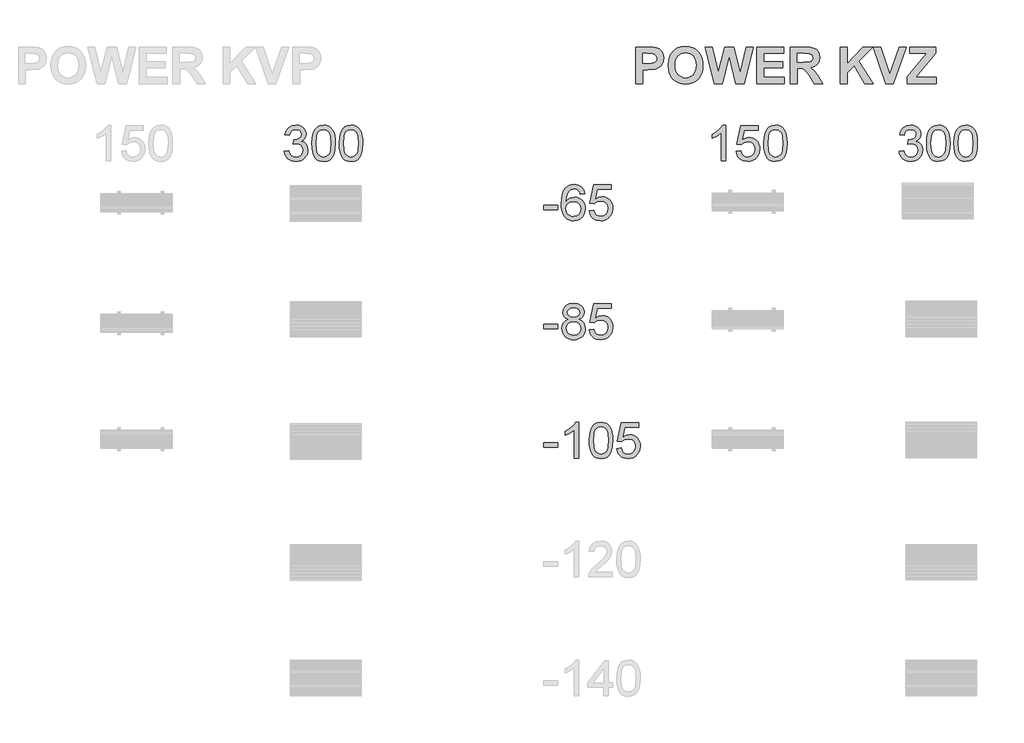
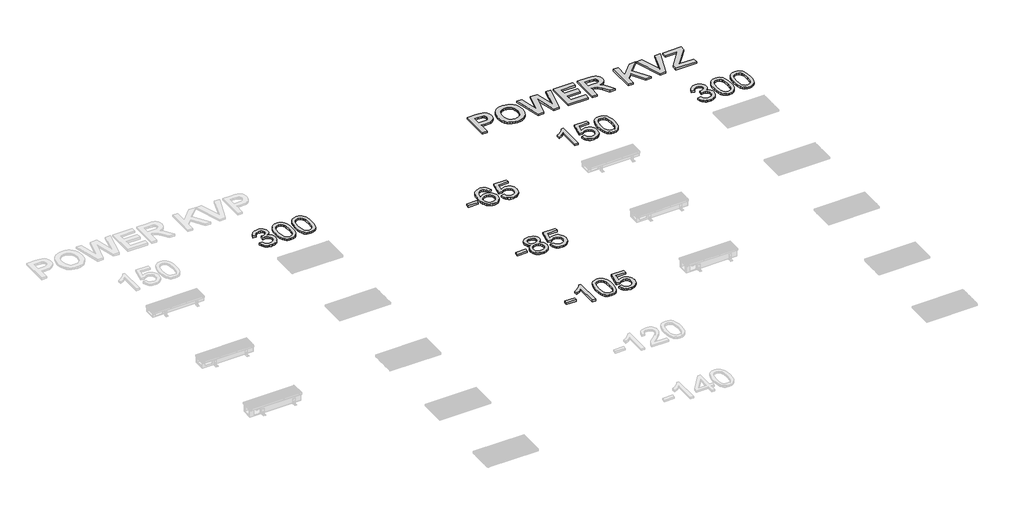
# One storey, part 10 of 10: 7 proxies.
"""IFC4 building model written with IfcOpenShell, lengths in millimetres."""

from ifc_helpers import new_model, si_unit, origin, origin_with_axes, place, context, project, spatial, polyline, outline, extrude, element, save

model = new_model("IFC4")

# Units and contexts
model_context = context("Model", 3, world=origin())
ifc_project = project(units=[si_unit("LENGTHUNIT", "METRE", prefix="MILLI")], contexts=[model_context])

# Site, building, storey
site = spatial("IfcSite", under=ifc_project)
building = spatial("IfcBuilding", under=site)
storey = spatial("IfcBuildingStorey", under=building, Name="Уровень 1", Elevation=0.0)

# Proxies
placement = place(None, origin())
element("IfcBuildingElementProxy", 1, Name="300", ObjectType="300", at=placement, inside=storey, context=model_context, shape_type="SweptSolid", body=[
    extrude(outline(polyline([(8727.5693217, -11374.3057257), (8765.240438, -11369.5968361), (8773.6741327, -11393.2700425), (8786.0257707, -11409.2545152), (8802.9023573, -11418.3595946), (8824.9108976, -11421.3946211), (8850.7362137, -11417.2191604), (8870.6754178, -11404.6927785), (8883.4225289, -11386.0043731), (8887.671566, -11363.3428422), (8883.4593171, -11341.8309426), (8870.8225706, -11324.3841389), (8851.6927069, -11312.8234472), (8828.0011064, -11308.9698833), (8801.5871791, -11313.0901617), (8805.7810339, -11275.4190454), (8811.8142986, -11275.8605038), (8834.383859, -11273.1565711), (8854.5621864, -11265.0447731), (8868.7992196, -11251.3227747), (8873.5448974, -11231.7882407), (8870.1052007, -11215.5186595), (8859.7861108, -11202.3208929), (8844.0407614, -11193.5744985), (8824.3222864, -11190.6590337), (8804.5670233, -11193.6020896), (8788.4170037, -11202.4312575), (8776.6263857, -11217.1465373), (8769.9493275, -11237.7479291), (8732.2782112, -11233.0390395), (8743.3698534, -11199.2122901), (8763.1067224, -11173.9571911), (8790.1092609, -11158.2302358), (8822.9979112, -11152.9879174), (8846.6803147, -11155.5722884), (8868.4313376, -11163.3254014), (8886.7702551, -11175.5574778), (8900.216342, -11191.5787387), (8908.4660958, -11210.0372178), (8911.2160137, -11229.5809488), (8908.6040515, -11247.7911075), (8900.768165, -11264.3090091), (8887.8187188, -11278.3804954), (8869.8660774, -11289.2514084), (8893.4473133, -11298.7795521), (8910.9217081, -11315.0031481), (8921.7374387, -11337.0392796), (8925.3426823, -11364.0050298), (8923.5400605, -11383.1164995), (8918.1321952, -11400.7196529), (8909.1190863, -11416.8144902), (8896.5007339, -11431.4010113), (8881.127865, -11443.504329), (8863.8512068, -11452.1495559), (8844.6707593, -11457.336692), (8823.5865224, -11459.0657374), (8804.5302351, -11457.5896109), (8787.1662049, -11453.1612313), (8771.4944319, -11445.7805988), (8757.5149161, -11435.4477133), (8745.793276, -11422.76958), (8736.8951303, -11408.3532043), (8730.8204788, -11392.1985862), (8727.5693217, -11374.3057257)])), origin_with_axes(), (0.0, 0.0, 1.0), 20.0),
    extrude(outline(polyline([(8958.3049091, -11306.1004038), (8961.0732211, -11257.8618772), (8969.3781571, -11219.3906175), (8983.1369437, -11190.0980136), (9002.2668075, -11169.3954544), (9026.9057041, -11157.0898016), (9057.1915894, -11152.9879174), (9080.4049433, -11155.4159385), (9101.190276, -11162.700002), (9118.5727003, -11174.5549993), (9131.5773288, -11190.6958219), (9141.3997781, -11210.9845139), (9149.2356646, -11235.2831197), (9154.3676184, -11266.139222), (9156.0782697, -11306.1004038), (9153.3375488, -11354.0630189), (9145.1153862, -11392.442308), (9131.439373, -11421.7625031), (9112.3371004, -11442.5478358), (9087.6430215, -11454.936262), (9057.1915894, -11459.0657374), (9036.4430448, -11457.2723126), (9018.0489451, -11451.8920385), (9002.0092901, -11442.9249148), (8988.3240799, -11430.3709417), (8975.1906926, -11407.6772212), (8965.8097018, -11379.4008913), (8960.1811072, -11345.5419522), (8958.3049091, -11306.1004038)]), holes=[polyline([(8995.9760254, -11306.0268274), (9000.3906093, -11365.2834197), (9005.9088392, -11385.5514184), (9013.6343611, -11399.5792187), (9033.3528361, -11415.9407705), (9057.1915894, -11421.3946211), (9081.0303427, -11415.9223764), (9100.7488176, -11399.5056423), (9108.4743395, -11385.4548494), (9113.9925694, -11365.1914492), (9118.4071534, -11306.0268274), (9114.1397222, -11248.1038072), (9108.8054333, -11227.9024872), (9101.3374288, -11213.5412938), (9081.655742, -11196.3795987), (9056.750131, -11190.6590337), (9033.1688951, -11195.699017), (9014.2229723, -11210.818967), (9006.239933, -11226.4539518), (9000.5377621, -11247.5335901), (8995.9760254, -11306.0268274)])]), origin_with_axes(), (0.0, 0.0, 1.0), 20.0),
    extrude(outline(polyline([(9189.0404964, -11306.1004038), (9191.8088085, -11257.8618772), (9200.1137445, -11219.3906175), (9213.8725311, -11190.0980136), (9233.0023949, -11169.3954544), (9257.6412915, -11157.0898016), (9287.9271767, -11152.9879174), (9311.1405306, -11155.4159385), (9331.9258634, -11162.700002), (9349.3082876, -11174.5549993), (9362.3129162, -11190.6958219), (9372.1353654, -11210.9845139), (9379.9712519, -11235.2831197), (9385.1032058, -11266.139222), (9386.813857, -11306.1004038), (9384.0731362, -11354.0630189), (9375.8509736, -11392.442308), (9362.1749604, -11421.7625031), (9343.0726878, -11442.5478358), (9318.3786089, -11454.936262), (9287.9271767, -11459.0657374), (9267.1786322, -11457.2723126), (9248.7845325, -11451.8920385), (9232.7448775, -11442.9249148), (9219.0596672, -11430.3709417), (9205.92628, -11407.6772212), (9196.5452891, -11379.4008913), (9190.9166946, -11345.5419522), (9189.0404964, -11306.1004038)]), holes=[polyline([(9226.7116127, -11306.0268274), (9231.1261967, -11365.2834197), (9236.6444266, -11385.5514184), (9244.3699485, -11399.5792187), (9264.0884235, -11415.9407705), (9287.9271767, -11421.3946211), (9311.76593, -11415.9223764), (9331.484405, -11399.5056423), (9339.2099269, -11385.4548494), (9344.7281568, -11365.1914492), (9349.1427407, -11306.0268274), (9344.8753096, -11248.1038072), (9339.5410207, -11227.9024872), (9332.0730162, -11213.5412938), (9312.3913294, -11196.3795987), (9287.4857183, -11190.6590337), (9263.9044825, -11195.699017), (9244.9585597, -11210.818967), (9236.9755204, -11226.4539518), (9231.2733495, -11247.5335901), (9226.7116127, -11306.0268274)])]), origin_with_axes(), (0.0, 0.0, 1.0), 20.0),
])
element("IfcBuildingElementProxy", 2, Name="300", ObjectType="300", at=placement, inside=storey, context=model_context, shape_type="SweptSolid", body=[
    extrude(outline(polyline([(10910.3041617, -11863.5358933), (10910.3041617, -11825.864777), (11028.0264001, -11825.864777), (11028.0264001, -11863.5358933), (10910.3041617, -11863.5358933)])), origin_with_axes(), (0.0, 0.0, 1.0), 20.0),
    extrude(outline(polyline([(11254.053098, -11731.6869862), (11216.3819817, -11736.3958758), (11210.3119287, -11717.7258645), (11202.1081602, -11704.9787534), (11185.0200416, -11693.2249236), (11164.3634675, -11689.3069804), (11146.8522846, -11691.5878488), (11130.3711712, -11698.4304539), (11116.2169114, -11712.842231), (11104.6562197, -11732.6802676), (11096.8479244, -11760.7404668), (11093.9508537, -11799.8187317), (11109.0616066, -11782.1879871), (11127.1705978, -11769.7627727), (11147.2661518, -11762.3959358), (11168.3365931, -11759.9403235), (11186.4363872, -11761.6187851), (11203.1382298, -11766.6541699), (11218.4421208, -11775.0464779), (11232.3480602, -11786.7957091), (11243.9041534, -11801.2028877), (11252.1585057, -11817.569038), (11257.111117, -11835.8941599), (11258.7619875, -11856.1782534), (11255.6533846, -11883.1532007), (11246.3275761, -11908.1599793), (11231.557114, -11929.3683763), (11212.1145505, -11944.9481788), (11188.8828025, -11954.5223078), (11162.7447868, -11957.7136841), (11140.2878902, -11955.5983626), (11120.006096, -11949.2523982), (11101.899404, -11938.6757908), (11085.9678144, -11923.8685405), (11072.9792807, -11904.2052479), (11063.7017566, -11879.0605135), (11058.1352422, -11848.4343374), (11056.2797373, -11812.3267196), (11058.3398765, -11771.8459045), (11064.520294, -11737.2971867), (11074.8209899, -11708.680566), (11089.2419641, -11685.9960424), (11104.8723504, -11670.9634644), (11122.9951372, -11660.2259087), (11143.6103245, -11653.7833752), (11166.7179123, -11651.6358641), (11199.7721096, -11656.9517589), (11226.2412191, -11672.8994434), (11244.7824717, -11698.2281188), (11254.053098, -11731.6869862)]), holes=[polyline([(11093.9508537, -11855.5896422), (11096.1305545, -11872.2822877), (11102.6696569, -11888.2207752), (11112.8232, -11901.9243795), (11125.8462226, -11911.9123757), (11141.5639809, -11918.0100197), (11159.8017308, -11920.0425678), (11184.6613566, -11915.8303189), (11204.2050876, -11903.1935724), (11216.8694253, -11883.3279446), (11221.0908712, -11857.4290522), (11216.9246076, -11832.5694264), (11204.4258168, -11813.6143066), (11184.550992, -11801.6121565), (11158.2566264, -11797.6114398), (11133.4337888, -11801.6121565), (11112.6760472, -11813.6143066), (11098.632152, -11832.1095739), (11093.9508537, -11855.5896422)])]), origin_with_axes(), (0.0, 0.0, 1.0), 20.0),
    extrude(outline(polyline([(11291.7242143, -11872.9536724), (11329.3953306, -11868.2447828), (11336.3115121, -11890.8603285), (11348.3780415, -11907.0563333), (11365.5397366, -11916.7960092), (11387.741415, -11920.0425678), (11414.7439534, -11915.5268163), (11434.9774632, -11901.9795618), (11447.6142097, -11880.9643028), (11451.8264586, -11854.0445378), (11447.8809242, -11828.6974684), (11436.044321, -11809.3100872), (11416.2246785, -11797.0044345), (11388.3300262, -11792.9025502), (11370.0554881, -11794.5396251), (11355.2574348, -11799.4508497), (11334.1042201, -11816.4469979), (11296.4331038, -11811.7381084), (11329.3953306, -11656.3447536), (11475.3709063, -11656.3447536), (11475.3709063, -11694.0158699), (11359.8559598, -11694.0158699), (11343.7427284, -11777.010048), (11370.6532963, -11760.6760875), (11398.8514513, -11755.2314339), (11417.1972665, -11756.9190926), (11434.0485611, -11761.9820685), (11449.4053352, -11770.4203618), (11463.2675886, -11782.2339724), (11474.7432076, -11796.7009318), (11482.9400783, -11813.0992718), (11487.8582007, -11831.4289922), (11489.4975749, -11851.6900931), (11483.5930688, -11889.3612094), (11476.2124363, -11906.1550224), (11465.8795508, -11921.5876721), (11450.2261719, -11937.3928024), (11431.9608308, -11948.6821811), (11411.0835276, -11955.4558083), (11387.5942622, -11957.7136841), (11350.5945305, -11951.9103456), (11334.9158598, -11944.6561725), (11321.1179857, -11934.5003302), (11309.6377682, -11921.9486563), (11300.9120671, -11907.5069888), (11291.7242143, -11872.9536724)])), origin_with_axes(), (0.0, 0.0, 1.0), 20.0),
])
element("IfcBuildingElementProxy", 3, Name="300", ObjectType="300", at=placement, inside=storey, context=model_context, shape_type="SweptSolid", body=[
    extrude(outline(polyline([(10910.3041617, -12863.5358933), (10910.3041617, -12825.864777), (11028.0264001, -12825.864777), (11028.0264001, -12863.5358933), (10910.3041617, -12863.5358933)])), origin_with_axes(), (0.0, 0.0, 1.0), 20.0),
    extrude(outline(polyline([(11115.8766206, -12787.0164383), (11095.7074902, -12777.0836244), (11081.5532304, -12763.6191434), (11073.1931121, -12746.8989067), (11070.406406, -12727.1988259), (11071.9239192, -12711.8351541), (11076.4764589, -12697.7498722), (11084.064025, -12684.9429802), (11094.6866176, -12673.4144782), (11107.8338004, -12663.8863345), (11122.9951372, -12657.0805176), (11159.3602724, -12651.6358641), (11195.9461368, -12657.2092763), (11211.2730204, -12664.1760416), (11224.6225383, -12673.929513), (11235.438269, -12685.6833427), (11243.1637909, -12698.6511831), (11247.799104, -12712.833034), (11249.3442084, -12728.2288955), (11246.5942905, -12747.2943799), (11238.3445368, -12763.729508), (11224.5029767, -12777.1112156), (11204.9776398, -12787.0164383), (11228.1634025, -12798.9634061), (11245.0399891, -12816.5573625), (11255.3314879, -12838.952179), (11258.7619875, -12865.3017269), (11257.0605333, -12884.0912998), (11251.9561706, -12901.3173742), (11243.4488994, -12916.9799502), (11231.5387199, -12931.0790276), (11216.8510312, -12942.7316898), (11200.0112329, -12951.05502), (11181.0193249, -12956.049018), (11159.8753072, -12957.7136841), (11138.7312895, -12956.0421203), (11119.7393815, -12951.0274288), (11102.8995832, -12942.6696097), (11088.2118945, -12930.968663), (11076.3017149, -12916.7707173), (11067.7944438, -12900.9219011), (11062.6900811, -12883.4222144), (11060.9886269, -12864.2716573), (11064.5570822, -12836.9012369), (11075.2624483, -12814.3868587), (11092.5529021, -12797.5010752), (11115.8766206, -12787.0164383)]), holes=[polyline([(11108.0775223, -12728.3024719), (11111.4160514, -12744.7467971), (11121.4316387, -12757.8801843), (11137.8299786, -12766.488623), (11160.3167656, -12769.3581025), (11182.2793207, -12766.5070171), (11198.4293403, -12757.9537607), (11208.3621542, -12745.2618319), (11211.6730921, -12729.9947291), (11208.2517896, -12714.1482121), (11197.9878819, -12701.042416), (11181.6171331, -12692.2408393), (11159.8753072, -12689.3069804), (11137.9955255, -12692.1764599), (11121.6523679, -12700.7848986), (11111.4712337, -12713.4032511), (11108.0775223, -12728.3024719)]), polyline([(11098.6597432, -12862.9472821), (11104.9505253, -12891.3109839), (11113.6601315, -12903.4786809), (11127.207386, -12912.5377751), (11143.430982, -12918.1663696), (11160.1696128, -12920.0425678), (11185.8109879, -12916.0970334), (11205.0512162, -12904.2604302), (11217.0809574, -12886.33538), (11221.0908712, -12864.1245045), (11216.9521987, -12841.53655), (11204.5361814, -12823.2160266), (11184.8544947, -12811.0759208), (11158.918814, -12807.0292188), (11133.6361239, -12811.0207385), (11114.5890336, -12822.9952974), (11102.6420658, -12840.9663329), (11098.6597432, -12862.9472821)])]), origin_with_axes(), (0.0, 0.0, 1.0), 20.0),
    extrude(outline(polyline([(11291.7242143, -12872.9536724), (11329.3953306, -12868.2447828), (11336.3115121, -12890.8603285), (11348.3780415, -12907.0563333), (11365.5397366, -12916.7960092), (11387.741415, -12920.0425678), (11414.7439534, -12915.5268163), (11434.9774632, -12901.9795618), (11447.6142097, -12880.9643028), (11451.8264586, -12854.0445378), (11447.8809242, -12828.6974684), (11436.044321, -12809.3100872), (11416.2246785, -12797.0044345), (11388.3300262, -12792.9025502), (11370.0554881, -12794.5396251), (11355.2574348, -12799.4508497), (11334.1042201, -12816.4469979), (11296.4331038, -12811.7381084), (11329.3953306, -12656.3447536), (11475.3709063, -12656.3447536), (11475.3709063, -12694.0158699), (11359.8559598, -12694.0158699), (11343.7427284, -12777.010048), (11370.6532963, -12760.6760875), (11398.8514513, -12755.2314339), (11417.1972665, -12756.9190926), (11434.0485611, -12761.9820685), (11449.4053352, -12770.4203618), (11463.2675886, -12782.2339724), (11474.7432076, -12796.7009318), (11482.9400783, -12813.0992718), (11487.8582007, -12831.4289922), (11489.4975749, -12851.6900931), (11483.5930688, -12889.3612094), (11476.2124363, -12906.1550224), (11465.8795508, -12921.5876721), (11450.2261719, -12937.3928024), (11431.9608308, -12948.6821811), (11411.0835276, -12955.4558083), (11387.5942622, -12957.7136841), (11350.5945305, -12951.9103456), (11334.9158598, -12944.6561725), (11321.1179857, -12934.5003302), (11309.6377682, -12921.9486563), (11300.9120671, -12907.5069888), (11291.7242143, -12872.9536724)])), origin_with_axes(), (0.0, 0.0, 1.0), 20.0),
])
element("IfcBuildingElementProxy", 4, Name="300", ObjectType="300", at=placement, inside=storey, context=model_context, shape_type="SweptSolid", body=[
    extrude(outline(polyline([(10910.3041617, -13863.5358933), (10910.3041617, -13825.864777), (11028.0264001, -13825.864777), (11028.0264001, -13863.5358933), (10910.3041617, -13863.5358933)])), origin_with_axes(), (0.0, 0.0, 1.0), 20.0),
    extrude(outline(polyline([(11202.255313, -13953.0047945), (11164.5841967, -13953.0047945), (11164.5841967, -13718.1489288), (11128.8996432, -13743.5695747), (11089.2419641, -13762.5890738), (11089.2419641, -13726.9780967), (11118.8288736, -13710.8832594), (11144.4610516, -13691.7350016), (11164.6669702, -13671.3727331), (11177.9751014, -13651.6358641), (11202.255313, -13651.6358641), (11202.255313, -13953.0047945)])), origin_with_axes(), (0.0, 0.0, 1.0), 20.0),
    extrude(outline(polyline([(11291.7242143, -13804.7483505), (11294.4925263, -13756.5098239), (11302.7974623, -13718.0385642), (11316.5562489, -13688.7459603), (11335.6861127, -13668.0434011), (11360.3250093, -13655.7377483), (11390.6108946, -13651.6358641), (11413.8242485, -13654.0638852), (11434.6095812, -13661.3479488), (11451.9920055, -13673.202946), (11464.996634, -13689.3437686), (11474.8190833, -13709.6324606), (11482.6549698, -13733.9310664), (11487.7869236, -13764.7871687), (11489.4975749, -13804.7483505), (11486.756854, -13852.7109656), (11478.5346914, -13891.0902547), (11464.8586782, -13920.4104498), (11445.7564056, -13941.1957825), (11421.0623267, -13953.5842087), (11390.6108946, -13957.7136841), (11369.86235, -13955.9202593), (11351.4682503, -13950.5399852), (11335.4285953, -13941.5728615), (11321.7433851, -13929.0188884), (11308.6099978, -13906.3251679), (11299.229007, -13878.048838), (11293.6004124, -13844.1898989), (11291.7242143, -13804.7483505)]), holes=[polyline([(11329.3953306, -13804.6747741), (11333.8099145, -13863.9313664), (11339.3281444, -13884.1993651), (11347.0536663, -13898.2271654), (11366.7721413, -13914.5887172), (11390.6108946, -13920.0425678), (11414.4496479, -13914.5703231), (11434.1681228, -13898.153589), (11441.8936447, -13884.1027961), (11447.4118746, -13863.8393959), (11451.8264586, -13804.6747741), (11447.5590274, -13746.7517539), (11442.2247385, -13726.5504339), (11434.756734, -13712.1892405), (11415.0750472, -13695.0275454), (11390.1694362, -13689.3069804), (11366.5882003, -13694.3469637), (11347.6422775, -13709.4669137), (11339.6592382, -13725.1018985), (11333.9570673, -13746.1815368), (11329.3953306, -13804.6747741)])]), origin_with_axes(), (0.0, 0.0, 1.0), 20.0),
    extrude(outline(polyline([(11522.4598016, -13872.9536724), (11560.1309179, -13868.2447828), (11567.0470995, -13890.8603285), (11579.1136289, -13907.0563333), (11596.275324, -13916.7960092), (11618.4770024, -13920.0425678), (11645.4795408, -13915.5268163), (11665.7130506, -13901.9795618), (11678.3497971, -13880.9643028), (11682.5620459, -13854.0445378), (11678.6165115, -13828.6974684), (11666.7799083, -13809.3100872), (11646.9602659, -13797.0044345), (11619.0656136, -13792.9025502), (11600.7910755, -13794.5396251), (11585.9930222, -13799.4508497), (11564.8398075, -13816.4469979), (11527.1686912, -13811.7381084), (11560.1309179, -13656.3447536), (11706.1064936, -13656.3447536), (11706.1064936, -13694.0158699), (11590.5915471, -13694.0158699), (11574.4783158, -13777.010048), (11601.3888837, -13760.6760875), (11629.5870386, -13755.2314339), (11647.9328539, -13756.9190926), (11664.7841485, -13761.9820685), (11680.1409226, -13770.4203618), (11694.003176, -13782.2339724), (11705.478795, -13796.7009318), (11713.6756657, -13813.0992718), (11718.5937881, -13831.4289922), (11720.2331622, -13851.6900931), (11714.3286562, -13889.3612094), (11706.9480237, -13906.1550224), (11696.6151382, -13921.5876721), (11680.9617593, -13937.3928024), (11662.6964182, -13948.6821811), (11641.819115, -13955.4558083), (11618.3298496, -13957.7136841), (11581.3301179, -13951.9103456), (11565.6514471, -13944.6561725), (11551.8535731, -13934.5003302), (11540.3733555, -13921.9486563), (11531.6476545, -13907.5069888), (11522.4598016, -13872.9536724)])), origin_with_axes(), (0.0, 0.0, 1.0), 20.0),
])
element("IfcBuildingElementProxy", 5, Name="300", ObjectType="300", at=placement, inside=storey, context=model_context, shape_type="SweptSolid", body=[
    extrude(outline(polyline([(12438.3616682, -11454.2480161), (12400.6905519, -11454.2480161), (12400.6905519, -11219.3921504), (12365.0059984, -11244.8127962), (12325.3483193, -11263.8322954), (12325.3483193, -11228.2213182), (12354.9352287, -11212.126481), (12380.5674067, -11192.9782231), (12400.7733253, -11172.6159547), (12414.0814565, -11152.8790856), (12438.3616682, -11152.8790856), (12438.3616682, -11454.2480161)])), origin_with_axes(), (0.0, 0.0, 1.0), 20.0),
    extrude(outline(polyline([(12527.8305694, -11374.1968939), (12565.5016857, -11369.4880044), (12572.4178672, -11392.10355), (12584.4843967, -11408.2995549), (12601.6460918, -11418.0392307), (12623.8477702, -11421.2857893), (12650.8503086, -11416.7700378), (12671.0838183, -11403.2227833), (12683.7205649, -11382.2075244), (12687.9328137, -11355.2877594), (12683.9872793, -11329.9406899), (12672.1506761, -11310.5533088), (12652.3310336, -11298.247656), (12624.4363814, -11294.1457718), (12606.1618432, -11295.7828467), (12591.36379, -11300.6940713), (12570.2105753, -11317.6902195), (12532.539459, -11312.9813299), (12565.5016857, -11157.5879752), (12711.4772614, -11157.5879752), (12711.4772614, -11195.2590915), (12595.9623149, -11195.2590915), (12579.8490835, -11278.2532696), (12606.7596515, -11261.919309), (12634.9578064, -11256.4746555), (12653.3036217, -11258.1623141), (12670.1549163, -11263.2252901), (12685.5116903, -11271.6635833), (12699.3739438, -11283.4771939), (12710.8495628, -11297.9441534), (12719.0464335, -11314.3424933), (12723.9645559, -11332.6722137), (12725.60393, -11352.9333146), (12719.699424, -11390.6044309), (12712.3187915, -11407.398244), (12701.9859059, -11422.8308937), (12686.332527, -11438.6360239), (12668.067186, -11449.9254026), (12647.1898828, -11456.6990299), (12623.7006174, -11458.9569056), (12586.7008857, -11453.1535671), (12571.0222149, -11445.899394), (12557.2243408, -11435.7435517), (12545.7441233, -11423.1918779), (12537.0184222, -11408.7502103), (12527.8305694, -11374.1968939)])), origin_with_axes(), (0.0, 0.0, 1.0), 20.0),
    extrude(outline(polyline([(12758.5661568, -11305.991572), (12761.3344688, -11257.7530454), (12769.6394048, -11219.2817858), (12783.3981915, -11189.9891819), (12802.5280552, -11169.2866226), (12827.1669518, -11156.9809699), (12857.4528371, -11152.8790856), (12880.666191, -11155.3071068), (12901.4515237, -11162.5911703), (12918.833948, -11174.4461676), (12931.8385765, -11190.5869901), (12941.6610258, -11210.8756822), (12949.4969123, -11235.1742879), (12954.6288661, -11266.0303903), (12956.3395174, -11305.991572), (12953.5987965, -11353.9541871), (12945.3766339, -11392.3334763), (12931.7006208, -11421.6536713), (12912.5983482, -11442.439004), (12887.9042692, -11454.8274302), (12857.4528371, -11458.9569056), (12836.7042926, -11457.1634809), (12818.3101928, -11451.7832067), (12802.2705378, -11442.8160831), (12788.5853276, -11430.26211), (12775.4519404, -11407.5683894), (12766.0709495, -11379.2920596), (12760.442355, -11345.4331204), (12758.5661568, -11305.991572)]), holes=[polyline([(12796.2372731, -11305.9179956), (12800.651857, -11365.174588), (12806.170087, -11385.4425867), (12813.8956089, -11399.470387), (12833.6140838, -11415.8319387), (12857.4528371, -11421.2857893), (12881.2915904, -11415.8135446), (12901.0100653, -11399.3968106), (12908.7355872, -11385.3460176), (12914.2538172, -11365.0826175), (12918.6684011, -11305.9179956), (12914.40097, -11247.9949755), (12909.066681, -11227.7936554), (12901.5986765, -11213.432462), (12881.9169898, -11196.270767), (12857.0113787, -11190.5502019), (12833.4301428, -11195.5901853), (12814.4842201, -11210.7101353), (12806.5011808, -11226.3451201), (12800.7990098, -11247.4247584), (12796.2372731, -11305.9179956)])]), origin_with_axes(), (0.0, 0.0, 1.0), 20.0),
])
element("IfcBuildingElementProxy", 6, Name="300", ObjectType="300", at=placement, inside=storey, context=model_context, shape_type="SweptSolid", body=[
    extrude(outline(polyline([(13897.094982, -11374.1968939), (13934.7660983, -11369.4880044), (13943.1997931, -11393.1612108), (13955.5514311, -11409.1456835), (13972.4280176, -11418.2507628), (13994.436558, -11421.2857893), (14020.261874, -11417.1103287), (14040.2010782, -11404.5839467), (14052.9481893, -11385.8955414), (14057.1972263, -11363.2340105), (14052.9849775, -11341.7221108), (14040.348231, -11324.2753072), (14021.2183672, -11312.7146155), (13997.5267667, -11308.8610516), (13971.1128395, -11312.9813299), (13975.3066942, -11275.3102136), (13981.3399589, -11275.751672), (14003.9095193, -11273.0477394), (14024.0878468, -11264.9359414), (14038.32488, -11251.2139429), (14043.0705577, -11231.679409), (14039.6308611, -11215.4098278), (14029.3117711, -11202.2120612), (14013.5664217, -11193.4656667), (13993.8479468, -11190.5502019), (13974.0926836, -11193.4932579), (13957.942664, -11202.3224258), (13946.1520461, -11217.0377056), (13939.4749879, -11237.6390973), (13901.8038716, -11232.9302078), (13912.8955137, -11199.1034583), (13932.6323828, -11173.8483594), (13959.6349212, -11158.1214041), (13992.5235716, -11152.8790856), (14016.205975, -11155.4634566), (14037.956998, -11163.2165697), (14056.2959155, -11175.448646), (14069.7420024, -11191.4699069), (14077.9917561, -11209.928386), (14080.741674, -11229.472117), (14078.1297119, -11247.6822758), (14070.2938254, -11264.2001774), (14057.3443791, -11278.2716637), (14039.3917378, -11289.1425766), (14062.9729737, -11298.6707203), (14080.4473684, -11314.8943163), (14091.2630991, -11336.9304478), (14094.8683427, -11363.8961981), (14093.0657209, -11383.0076677), (14087.6578555, -11400.6108212), (14078.6447467, -11416.7056585), (14066.0263942, -11431.2921796), (14050.6535254, -11443.3954972), (14033.3768672, -11452.0407241), (14014.1964196, -11457.2278602), (13993.1121828, -11458.9569056), (13974.0558954, -11457.4807791), (13956.6918653, -11453.0523996), (13941.0200923, -11445.6717671), (13927.0405765, -11435.3388815), (13915.3189364, -11422.6607483), (13906.4207906, -11408.2443726), (13900.3461392, -11392.0897545), (13897.094982, -11374.1968939)])), origin_with_axes(), (0.0, 0.0, 1.0), 20.0),
    extrude(outline(polyline([(14127.8305694, -11305.991572), (14130.5988814, -11257.7530454), (14138.9038175, -11219.2817858), (14152.6626041, -11189.9891819), (14171.7924678, -11169.2866226), (14196.4313645, -11156.9809699), (14226.7172497, -11152.8790856), (14249.9306036, -11155.3071068), (14270.7159363, -11162.5911703), (14288.0983606, -11174.4461676), (14301.1029891, -11190.5869901), (14310.9254384, -11210.8756822), (14318.7613249, -11235.1742879), (14323.8932787, -11266.0303903), (14325.60393, -11305.991572), (14322.8632092, -11353.9541871), (14314.6410466, -11392.3334763), (14300.9650334, -11421.6536713), (14281.8627608, -11442.439004), (14257.1686819, -11454.8274302), (14226.7172497, -11458.9569056), (14205.9687052, -11457.1634809), (14187.5746054, -11451.7832067), (14171.5349504, -11442.8160831), (14157.8497402, -11430.26211), (14144.716353, -11407.5683894), (14135.3353621, -11379.2920596), (14129.7067676, -11345.4331204), (14127.8305694, -11305.991572)]), holes=[polyline([(14165.5016857, -11305.9179956), (14169.9162697, -11365.174588), (14175.4344996, -11385.4425867), (14183.1600215, -11399.470387), (14202.8784964, -11415.8319387), (14226.7172497, -11421.2857893), (14250.556003, -11415.8135446), (14270.274478, -11399.3968106), (14277.9999998, -11385.3460176), (14283.5182298, -11365.0826175), (14287.9328137, -11305.9179956), (14283.6653826, -11247.9949755), (14278.3310936, -11227.7936554), (14270.8630891, -11213.432462), (14251.1814024, -11196.270767), (14226.2757913, -11190.5502019), (14202.6945554, -11195.5901853), (14183.7486327, -11210.7101353), (14175.7655934, -11226.3451201), (14170.0634225, -11247.4247584), (14165.5016857, -11305.9179956)])]), origin_with_axes(), (0.0, 0.0, 1.0), 20.0),
    extrude(outline(polyline([(14358.5661568, -11305.991572), (14361.3344688, -11257.7530454), (14369.6394048, -11219.2817858), (14383.3981915, -11189.9891819), (14402.5280552, -11169.2866226), (14427.1669518, -11156.9809699), (14457.4528371, -11152.8790856), (14480.666191, -11155.3071068), (14501.4515237, -11162.5911703), (14518.833948, -11174.4461676), (14531.8385765, -11190.5869901), (14541.6610258, -11210.8756822), (14549.4969123, -11235.1742879), (14554.6288661, -11266.0303903), (14556.3395174, -11305.991572), (14553.5987965, -11353.9541871), (14545.3766339, -11392.3334763), (14531.7006208, -11421.6536713), (14512.5983482, -11442.439004), (14487.9042692, -11454.8274302), (14457.4528371, -11458.9569056), (14436.7042926, -11457.1634809), (14418.3101928, -11451.7832067), (14402.2705378, -11442.8160831), (14388.5853276, -11430.26211), (14375.4519404, -11407.5683894), (14366.0709495, -11379.2920596), (14360.442355, -11345.4331204), (14358.5661568, -11305.991572)]), holes=[polyline([(14396.2372731, -11305.9179956), (14400.651857, -11365.174588), (14406.170087, -11385.4425867), (14413.8956089, -11399.470387), (14433.6140838, -11415.8319387), (14457.4528371, -11421.2857893), (14481.2915904, -11415.8135446), (14501.0100653, -11399.3968106), (14508.7355872, -11385.3460176), (14514.2538172, -11365.0826175), (14518.6684011, -11305.9179956), (14514.40097, -11247.9949755), (14509.066681, -11227.7936554), (14501.5986765, -11213.432462), (14481.9169898, -11196.270767), (14457.0113787, -11190.5502019), (14433.4301428, -11195.5901853), (14414.4842201, -11210.7101353), (14406.5011808, -11226.3451201), (14400.7990098, -11247.4247584), (14396.2372731, -11305.9179956)])]), origin_with_axes(), (0.0, 0.0, 1.0), 20.0),
])
element("IfcBuildingElementProxy", 7, Name="300_", ObjectType="300_", at=placement, inside=storey, context=model_context, shape_type="SweptSolid", body=[
    extrude(outline(polyline([(11684.2678116, -10803.2774587), (11684.2678116, -10497.1996387), (11782.8777044, -10497.1996387), (11829.2030987, -10498.3383211), (11855.9811123, -10501.7543682), (11880.0357773, -10512.6192957), (11899.8203834, -10531.5498901), (11913.0575659, -10557.8439637), (11917.4699601, -10590.7993292), (11914.8794577, -10616.5809958), (11907.1079506, -10637.9028231), (11895.3415661, -10654.9451025), (11880.7664318, -10667.8881254), (11864.6635654, -10676.9501392), (11848.3139844, -10682.3493914), (11783.4090896, -10686.6763844), (11742.5683487, -10686.6763844), (11742.5683487, -10803.2774587), (11684.2678116, -10803.2774587)]), holes=[polyline([(11742.5683487, -10550.6417977), (11742.5683487, -10633.2342254), (11778.7784479, -10633.2342254), (11811.3922087, -10632.095543), (11831.0439685, -10628.6794959), (11842.7913749, -10622.8247707), (11851.6920754, -10614.3700542), (11857.3000861, -10603.8277533), (11859.169423, -10591.7102751), (11856.5409645, -10577.230031), (11848.6555891, -10565.5205807), (11836.7658474, -10557.1322872), (11822.12429, -10552.6155138), (11774.5273671, -10550.6417977), (11742.5683487, -10550.6417977)])]), origin_with_axes(), (0.0, 0.0, 1.0), 20.0),
    extrude(outline(polyline([(11956.3369849, -10652.1363526), (11959.77201, -10609.2080274), (11970.0770854, -10573.7950059), (11982.1945636, -10551.6761009), (11998.0507155, -10531.9294509), (12016.6207271, -10515.7696503), (12036.8797842, -10504.4112937), (12067.1307791, -10495.3587689), (12101.7087669, -10492.3412606), (12133.2597575, -10494.9578578), (12161.4895912, -10502.8076494), (12186.3982679, -10515.8906353), (12207.9857878, -10534.2068156), (12225.4218615, -10557.1821046), (12237.8761999, -10584.2424166), (12245.3488029, -10615.3877515), (12247.8396706, -10650.6181095), (12245.3677809, -10685.6088697), (12237.952112, -10716.5667965), (12225.5926638, -10743.49189), (12208.2894364, -10766.38415), (12186.8442518, -10784.650513), (12162.0589323, -10797.6979151), (12133.9334779, -10805.5263564), (12102.4678885, -10808.1358368), (12070.6701834, -10805.5382176), (12042.3075035, -10797.7453602), (12017.3798487, -10784.7572645), (11995.8872191, -10766.5739304), (11978.5839916, -10743.8358669), (11966.2245434, -10717.1835828), (11958.8088745, -10686.617078), (11956.3369849, -10652.1363526)]), holes=[polyline([(12014.637522, -10650.0108122), (12016.1866045, -10674.222046), (12020.8338519, -10695.3113923), (12028.5792642, -10713.2788512), (12039.4228415, -10728.1244225), (12052.6529073, -10739.7484717), (12067.557785, -10748.0513639), (12084.1374747, -10753.0330993), (12102.3919764, -10754.6936777), (12120.6275, -10753.0449606), (12137.1502556, -10748.098809), (12151.9602431, -10739.8552232), (12165.0574626, -10728.3142029), (12175.7681936, -10713.4757483), (12183.4187157, -10695.3398594), (12188.009029, -10673.9065361), (12189.5391334, -10649.1757785), (12188.0493573, -10624.7889978), (12183.5800291, -10603.704396), (12176.1311486, -10585.9219731), (12165.7027159, -10571.441729), (12152.8071381, -10560.2162186), (12137.9568223, -10552.197997), (12121.1517683, -10547.387064), (12102.3919764, -10545.7834197), (12083.6132063, -10547.406042), (12066.7512183, -10552.2739091), (12051.8060122, -10560.387021), (12038.7775882, -10571.7453776), (12028.2163092, -10586.3727015), (12020.6725386, -10604.2927152), (12016.1462761, -10625.5054188), (12014.637522, -10650.0108122)])]), origin_with_axes(), (0.0, 0.0, 1.0), 20.0),
    extrude(outline(polyline([(12344.3240231, -10803.2774587), (12267.273183, -10497.1996387), (12327.0919633, -10497.1996387), (12376.5866901, -10707.4763156), (12429.8011127, -10497.1996387), (12508.2183716, -10497.1996387), (12561.2050577, -10710.9682749), (12610.6997845, -10497.1996387), (12670.5185648, -10497.1996387), (12594.6064071, -10803.2774587), (12525.6022557, -10803.2774587), (12468.8958739, -10574.4782153), (12411.0508097, -10803.2774587), (12344.3240231, -10803.2774587)])), origin_with_axes(), (0.0, 0.0, 1.0), 20.0),
    extrude(outline(polyline([(12699.6688334, -10803.2774587), (12699.6688334, -10497.1996387), (12928.0126039, -10497.1996387), (12928.0126039, -10550.6417977), (12757.9693706, -10550.6417977), (12757.9693706, -10618.6590911), (12918.2958477, -10618.6590911), (12918.2958477, -10672.1012501), (12757.9693706, -10672.1012501), (12757.9693706, -10749.8352996), (12932.870982, -10749.8352996), (12932.870982, -10803.2774587), (12699.6688334, -10803.2774587)])), origin_with_axes(), (0.0, 0.0, 1.0), 20.0),
    extrude(outline(polyline([(12981.4547629, -10803.2774587), (12981.4547629, -10497.1996387), (13110.2017824, -10497.1996387), (13152.1432496, -10499.268245), (13180.8000891, -10505.4740639), (13200.6131623, -10516.9747558), (13216.0233303, -10534.9279811), (13225.9298669, -10557.6446943), (13229.2320458, -10583.4358499), (13224.4590689, -10615.0342855), (13210.1401381, -10640.5977047), (13186.3132096, -10658.9684468), (13153.0162394, -10668.9888517), (13183.608839, -10694.4953367), (13216.0992425, -10743.9141513), (13253.5239362, -10803.2774587), (13185.4307308, -10803.2774587), (13141.0980306, -10733.3623614), (13106.2923063, -10691.8763672), (13086.403321, -10680.1479388), (13053.1158398, -10676.9596282), (13039.7553001, -10676.9596282), (13039.7553001, -10803.2774587), (12981.4547629, -10803.2774587)]), holes=[polyline([(13039.7553001, -10623.5174692), (13087.8076959, -10623.5174692), (13146.1461891, -10619.9875538), (13156.5271767, -10615.1861099), (13164.365107, -10607.8416086), (13169.2899082, -10598.1533195), (13170.9315086, -10586.3205119), (13168.7680121, -10573.2161757), (13162.2775227, -10562.9016112), (13151.839601, -10555.6235331), (13137.8338079, -10551.6286558), (13090.4646214, -10550.6417977), (13039.7553001, -10550.6417977), (13039.7553001, -10623.5174692)])]), origin_with_axes(), (0.0, 0.0, 1.0), 20.0),
    extrude(outline(polyline([(13404.1336572, -10803.2774587), (13404.1336572, -10497.1996387), (13462.4341943, -10497.1996387), (13462.4341943, -10636.7261846), (13593.7622272, -10497.1996387), (13673.7736415, -10497.1996387), (13557.9316888, -10614.1043616), (13678.6320196, -10803.2774587), (13610.4629019, -10803.2774587), (13520.0515221, -10652.4400013), (13462.4341943, -10710.6646263), (13462.4341943, -10803.2774587), (13404.1336572, -10803.2774587)])), origin_with_axes(), (0.0, 0.0, 1.0), 20.0),
    extrude(outline(polyline([(13784.225831, -10803.2774587), (13681.0612086, -10497.1996387), (13742.5500564, -10497.1996387), (13819.5249843, -10725.5434092), (13896.7276487, -10497.1996387), (13957.98876, -10497.1996387), (13849.3584623, -10803.2774587), (13784.225831, -10803.2774587)])), origin_with_axes(), (0.0, 0.0, 1.0), 20.0),
    extrude(outline(polyline([(13967.7055162, -10803.2774587), (13967.7055162, -10744.9769215), (14131.7516891, -10550.6417977), (13987.1390286, -10550.6417977), (13987.1390286, -10497.1996387), (14205.7660429, -10497.1996387), (14205.7660429, -10550.6417977), (14037.6206135, -10749.8352996), (14210.624421, -10749.8352996), (14210.624421, -10803.2774587), (13967.7055162, -10803.2774587)])), origin_with_axes(), (0.0, 0.0, 1.0), 20.0),
])

save(model, "model.ifc")
